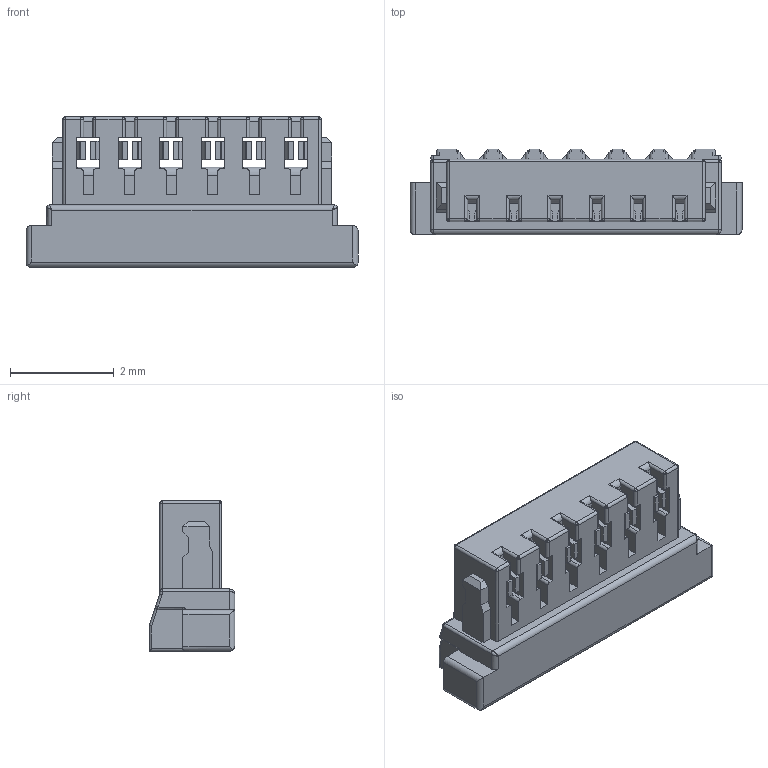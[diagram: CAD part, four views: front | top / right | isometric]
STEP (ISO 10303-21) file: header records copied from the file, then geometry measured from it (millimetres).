
FILE_DESCRIPTION((''),'2;1');
FILE_NAME('SCT0800HI-06','2023-03-21T23:18:58',('Administrator'),(''),'CREO PARAMETRIC BY PTC INC, 2018050','CREO PARAMETRIC BY PTC INC, 2018050','');
FILE_SCHEMA(('CONFIG_CONTROL_DESIGN'));
Length unit declared in the file: millimetre
Products named in the file (1): SCT0800HI-06
Bounding box: 6.4 x 1.65 x 2.9 mm (x, y, z)
Volume: 14.8 mm3; surface area: 108.5 mm2
Topology: 1 solids, 1 shells, 1114 faces, 3223 edges, 2023 vertices
Faces by surface type: plane 738, cylinder 332, sphere 40, bspline 3, torus 1
Entity records: 36394 total; most frequent: CARTESIAN_POINT 6882, ORIENTED_EDGE 6390, DIRECTION 5978, EDGE_CURVE 3195, VECTOR 2486, LINE 2486, VERTEX_POINT 2023, AXIS2_PLACEMENT_3D 1746
